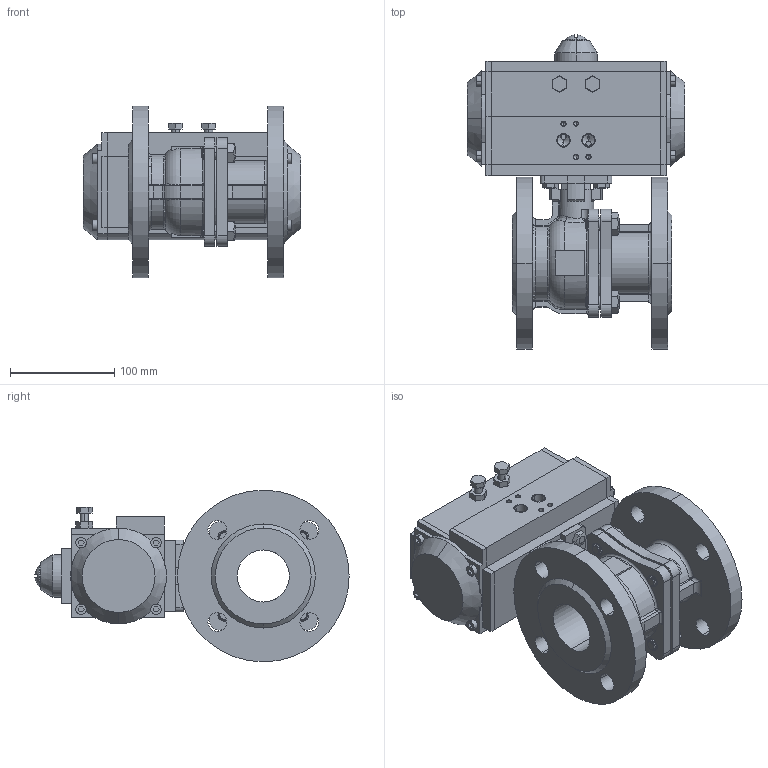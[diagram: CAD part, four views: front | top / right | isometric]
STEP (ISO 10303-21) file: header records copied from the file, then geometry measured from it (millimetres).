
FILE_DESCRIPTION((''),'2;1');
FILE_NAME('BV-22F_RPA_ASM','2024-09-11T',('USER'),(''),'PRO/ENGINEER BY PARAMETRIC TECHNOLOGY CORPORATION, 2011220','PRO/ENGINEER BY PARAMETRIC TECHNOLOGY CORPORATION, 2011220','');
FILE_SCHEMA(('CONFIG_CONTROL_DESIGN'));
Length unit declared in the file: millimetre
Products named in the file (12): KORPUS_KRAN_FL; B-7798-M12-25; SB_KRAN_FL_ASM; KORPUS_PNEVMOPRIVOD; KOLCO_18_GOST13942; KRISKA_VERX; VINT; KRISKA_LEFT; KRISKA_RIGHT; SB_PNEVMOPRIVOD_ASM; B-7798-M8-16; BV-22F_RPA_ASM
Assembly tree (17 placements, depth 3):
  BV-22F_RPA_ASM
    SB_KRAN_FL_ASM
      KORPUS_KRAN_FL
      B-7798-M12-25  x4
    SB_PNEVMOPRIVOD_ASM
      KORPUS_PNEVMOPRIVOD
      KOLCO_18_GOST13942
      KRISKA_VERX
      VINT
      KRISKA_LEFT
      KRISKA_RIGHT
    B-7798-M8-16  x4
Bounding box: 209 x 301.93 x 165 mm (x, y, z)
Volume: 2945621.7 mm3; surface area: 361992.2 mm2
Topology: 15 solids, 49 shells, 855 faces, 2190 edges, 1399 vertices
Faces by surface type: plane 414, cylinder 291, cone 82, torus 31, bspline 30, sphere 6, extrusion 1
Entity records: 24623 total; most frequent: CARTESIAN_POINT 5895, DIRECTION 3980, ORIENTED_EDGE 3684, EDGE_CURVE 1900, AXIS2_PLACEMENT_3D 1439, VERTEX_POINT 1243, VECTOR 1102, LINE 1101
